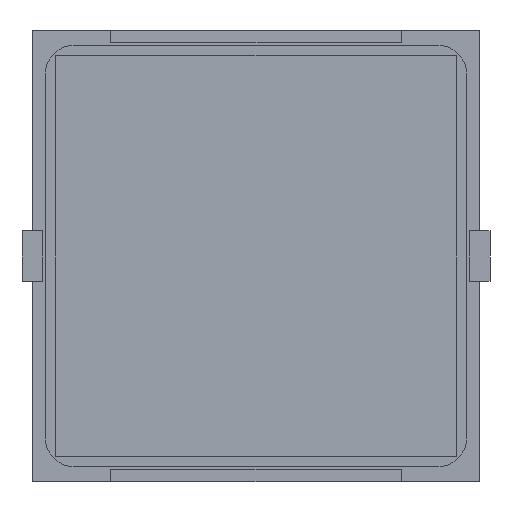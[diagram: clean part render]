
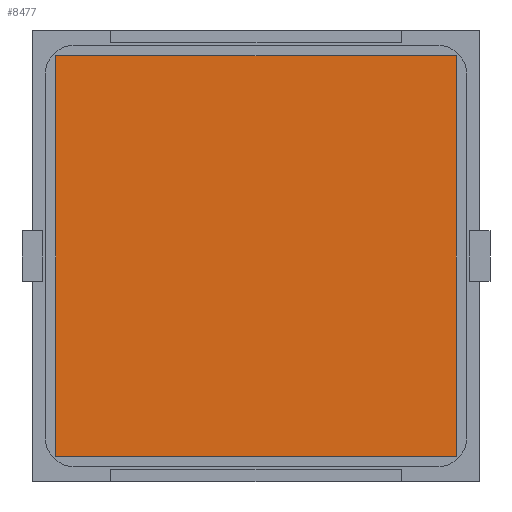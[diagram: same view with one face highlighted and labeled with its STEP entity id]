
A CAD part, front view. The second image highlights one B-rep face of the part: STEP entity #8477.
In plain terms, the highlighted planar face has unit normal (0, -1, 0).
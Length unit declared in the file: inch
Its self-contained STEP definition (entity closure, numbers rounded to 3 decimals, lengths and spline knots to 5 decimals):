
#437 = EDGE_CURVE ( 'NONE', #698, #21497, #4514, .T. ) ;
#698 = VERTEX_POINT ( 'NONE', #16065 ) ;
#945 = CARTESIAN_POINT ( 'NONE',  ( -0.7874, -0.005, -0.7874 ) ) ;
#1024 = AXIS2_PLACEMENT_3D ( 'NONE', #22091, #5655, #14231 ) ;
#2336 = EDGE_CURVE ( 'NONE', #21497, #8726, #4255, .T. ) ;
#2936 = CARTESIAN_POINT ( 'NONE',  ( 0.7874, -0.005, -0.7874 ) ) ;
#3422 = CARTESIAN_POINT ( 'NONE',  ( 0.7874, -0.005, -0.7874 ) ) ;
#3921 = LINE ( 'NONE', #10734, #5204 ) ;
#4255 = LINE ( 'NONE', #7754, #5950 ) ;
#4514 = LINE ( 'NONE', #945, #10120 ) ;
#4904 = VERTEX_POINT ( 'NONE', #2936 ) ;
#5125 = EDGE_LOOP ( 'NONE', ( #13780, #17084, #17205, #15242 ) ) ;
#5204 = VECTOR ( 'NONE', #20997, 39.37008 ) ;
#5655 = DIRECTION ( 'NONE',  ( 0., 1., 0. ) ) ;
#5950 = VECTOR ( 'NONE', #9655, 39.37008 ) ;
#6928 = DIRECTION ( 'NONE',  ( 0., 0., -1. ) ) ;
#7754 = CARTESIAN_POINT ( 'NONE',  ( -0.7874, -0.005, 0.7874 ) ) ;
#8477 = ADVANCED_FACE ( 'NONE', ( #10268 ), #10472, .F. ) ;
#8726 = VERTEX_POINT ( 'NONE', #19126 ) ;
#8919 = EDGE_CURVE ( 'NONE', #4904, #698, #3921, .T. ) ;
#9655 = DIRECTION ( 'NONE',  ( 1., 0., 0. ) ) ;
#10120 = VECTOR ( 'NONE', #12865, 39.37008 ) ;
#10268 = FACE_OUTER_BOUND ( 'NONE', #5125, .T. ) ;
#10472 = PLANE ( 'NONE',  #1024 ) ;
#10734 = CARTESIAN_POINT ( 'NONE',  ( -0.7874, -0.005, -0.7874 ) ) ;
#11732 = CARTESIAN_POINT ( 'NONE',  ( -0.7874, -0.005, 0.7874 ) ) ;
#12069 = LINE ( 'NONE', #3422, #15744 ) ;
#12865 = DIRECTION ( 'NONE',  ( 0., 0., 1. ) ) ;
#13780 = ORIENTED_EDGE ( 'NONE', *, *, #437, .F. ) ;
#14231 = DIRECTION ( 'NONE',  ( 0., 0., 1. ) ) ;
#15242 = ORIENTED_EDGE ( 'NONE', *, *, #2336, .F. ) ;
#15744 = VECTOR ( 'NONE', #6928, 39.37008 ) ;
#16065 = CARTESIAN_POINT ( 'NONE',  ( -0.7874, -0.005, -0.7874 ) ) ;
#16977 = EDGE_CURVE ( 'NONE', #8726, #4904, #12069, .T. ) ;
#17084 = ORIENTED_EDGE ( 'NONE', *, *, #8919, .F. ) ;
#17205 = ORIENTED_EDGE ( 'NONE', *, *, #16977, .F. ) ;
#19126 = CARTESIAN_POINT ( 'NONE',  ( 0.7874, -0.005, 0.7874 ) ) ;
#20997 = DIRECTION ( 'NONE',  ( -1., 0., 0. ) ) ;
#21497 = VERTEX_POINT ( 'NONE', #11732 ) ;
#22091 = CARTESIAN_POINT ( 'NONE',  ( -0.7874, -0.005, 0.7874 ) ) ;
